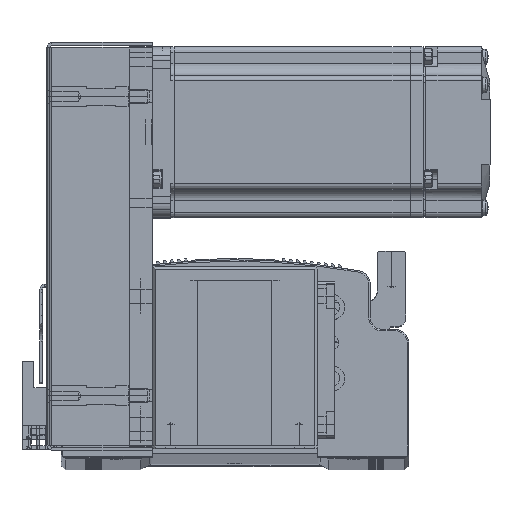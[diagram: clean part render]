
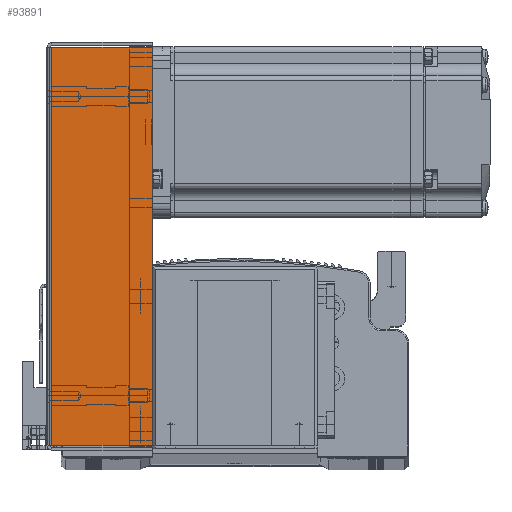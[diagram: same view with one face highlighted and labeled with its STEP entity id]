
A CAD part, top view. The second image highlights one B-rep face of the part: STEP entity #93891.
In plain terms, the highlighted planar face has unit normal (0, 0, 1) as drawn and (0, 0, -1) by its records, which use the part's own axes.
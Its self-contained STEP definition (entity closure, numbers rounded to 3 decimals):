
#27075 = DIRECTION ( 'NONE',  ( 0., 1., 0. ) ) ;
#27103 = CARTESIAN_POINT ( 'NONE',  ( 71.5, 0.737, -33.5 ) ) ;
#27129 = DIRECTION ( 'NONE',  ( 1., 0., 0. ) ) ;
#27131 = CARTESIAN_POINT ( 'NONE',  ( -69.793, 0., -33.5 ) ) ;
#27365 = DIRECTION ( 'NONE',  ( 1., 0., 0. ) ) ;
#27368 = DIRECTION ( 'NONE',  ( 0., 1., 0. ) ) ;
#27433 = CARTESIAN_POINT ( 'NONE',  ( 0., 36., -33.5 ) ) ;
#27454 = CARTESIAN_POINT ( 'NONE',  ( 69.793, 0., -33.5 ) ) ;
#38476 = EDGE_CURVE ( 'NONE', #48597, #48612, #59162, .T. ) ;
#38478 = EDGE_CURVE ( 'NONE', #48597, #48550, #59181, .T. ) ;
#38547 = EDGE_CURVE ( 'NONE', #48612, #48535, #59252, .T. ) ;
#38549 = EDGE_CURVE ( 'NONE', #48550, #48535, #59220, .T. ) ;
#45364 = ORIENTED_EDGE ( 'NONE', *, *, #38478, .F. ) ;
#45656 = ORIENTED_EDGE ( 'NONE', *, *, #38547, .T. ) ;
#45679 = ORIENTED_EDGE ( 'NONE', *, *, #38476, .T. ) ;
#45811 = ORIENTED_EDGE ( 'NONE', *, *, #38549, .F. ) ;
#48535 = VERTEX_POINT ( 'NONE', #51077 ) ;
#48550 = VERTEX_POINT ( 'NONE', #51080 ) ;
#48597 = VERTEX_POINT ( 'NONE', #51057 ) ;
#48612 = VERTEX_POINT ( 'NONE', #50966 ) ;
#50009 = AXIS2_PLACEMENT_3D ( 'NONE', #70214, #70215, #70204 ) ;
#50966 = CARTESIAN_POINT ( 'NONE',  ( -69.793, 36., -33.5 ) ) ;
#51057 = CARTESIAN_POINT ( 'NONE',  ( -69.793, 0.737, -33.5 ) ) ;
#51077 = CARTESIAN_POINT ( 'NONE',  ( 69.793, 36., -33.5 ) ) ;
#51080 = CARTESIAN_POINT ( 'NONE',  ( 69.793, 0.737, -33.5 ) ) ;
#59162 = LINE ( 'NONE', #27131, #59198 ) ;
#59181 = LINE ( 'NONE', #27103, #59182 ) ;
#59182 = VECTOR ( 'NONE', #27129, 1000. ) ;
#59198 = VECTOR ( 'NONE', #27075, 1000. ) ;
#59220 = LINE ( 'NONE', #27454, #59267 ) ;
#59252 = LINE ( 'NONE', #27433, #59253 ) ;
#59253 = VECTOR ( 'NONE', #27365, 1000. ) ;
#59267 = VECTOR ( 'NONE', #27368, 1000. ) ;
#70204 = DIRECTION ( 'NONE',  ( 0., -1., 0. ) ) ;
#70214 = CARTESIAN_POINT ( 'NONE',  ( 0., 0., -33.5 ) ) ;
#70215 = DIRECTION ( 'NONE',  ( 0., 0., 1. ) ) ;
#70233 = PLANE ( 'NONE',  #50009 ) ;
#75278 = FACE_OUTER_BOUND ( 'NONE', #97419, .T. ) ;
#93891 = ADVANCED_FACE ( 'NONE', ( #75278 ), #70233, .F. ) ;
#97419 = EDGE_LOOP ( 'NONE', ( #45364, #45679, #45656, #45811 ) ) ;
